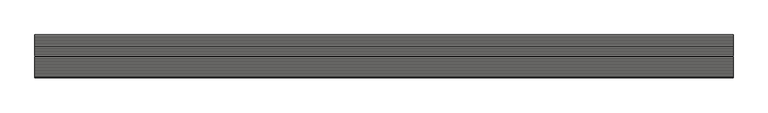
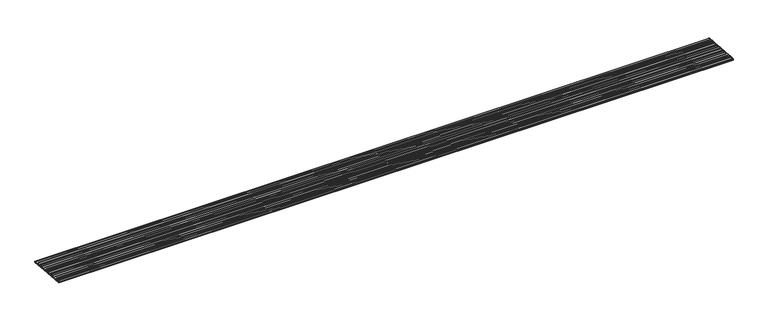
"""IFC4 building model written with IfcOpenShell, lengths in millimetres: slab geometry, ROSA GRES_001 (2 filas) : Piezas 001_Aqua_Blanco_Anti-Slip."""

from ifc_helpers import new_model, si_unit, point, frame, frame_2d, origin, place, context, project, spatial, polyline, circle_curve, trimmed, segment, composite_curve, outline, extrude, source, transform, mapped, element, save


def slab_e566efe1(model_context):
    return source(origin(), model_context, "Body", "SweptSolid", [
        extrude(outline(polyline([(0.0, 118.9996), (3987.1379887, 118.9996), (3987.1379887, 0.0), (0.0, 0.0), (0.0, 118.9996)])), frame((3987.1379887, -124.0577627, 199.6968204), z_axis=(0.0, 0.08112705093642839, 0.9967037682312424), x_axis=(-1.0, 0.0, 0.0)), (0.0, 0.0, 1.0), 5.0),
        extrude(outline(polyline([(0.0, 118.9996), (3987.1379887, 118.9996), (3987.1379887, 0.0), (0.0, 0.0), (0.0, 118.9996)])), frame((3987.1379887, -248.6453351, 209.8376693), z_axis=(0.0, 0.08112705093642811, 0.9967037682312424), x_axis=(-1.0, 0.0, 0.0)), (0.0, 0.0, 1.0), 5.0),
        extrude(outline(composite_curve([segment(polyline([(-242.2594772, 214.3344258), (-242.046278, 216.9537305)]), True, "CONTINUOUS"), segment(trimmed(circle_curve(frame_2d((-241.5926747, 222.5265709)), 5.5912705), [point((-242.046278, 216.9537305))], [point((-237.6514463, 218.5605875))], True, "CARTESIAN"), True, "CONTINUOUS"), segment(trimmed(circle_curve(frame_2d((-233.1207211, 221.8369933)), 5.5912705), [point((-237.6514463, 218.5605875))], [point((-229.1794928, 217.8710099))], True, "CARTESIAN"), True, "CONTINUOUS"), segment(trimmed(circle_curve(frame_2d((-224.6487676, 221.1474157)), 5.5912705), [point((-229.1794928, 217.8710099))], [point((-220.7075392, 217.1814322))], True, "CARTESIAN"), True, "CONTINUOUS"), segment(trimmed(circle_curve(frame_2d((-216.176814, 220.457838)), 5.5912705), [point((-220.7075392, 217.1814322))], [point((-212.2355856, 216.4918546))], True, "CARTESIAN"), True, "CONTINUOUS"), segment(trimmed(circle_curve(frame_2d((-207.7048605, 219.7682604)), 5.5912705), [point((-212.2355856, 216.4918546))], [point((-203.7636321, 215.802277))], True, "CARTESIAN"), True, "CONTINUOUS"), segment(trimmed(circle_curve(frame_2d((-199.2329069, 219.0786828)), 5.5912705), [point((-203.7636321, 215.802277))], [point((-195.2916785, 215.1126994))], True, "CARTESIAN"), True, "CONTINUOUS"), segment(trimmed(circle_curve(frame_2d((-190.7609534, 218.3891052)), 5.5912705), [point((-195.2916785, 215.1126994))], [point((-186.819725, 214.4231218))], True, "CARTESIAN"), True, "CONTINUOUS"), segment(trimmed(circle_curve(frame_2d((-182.2889998, 217.6995276)), 5.5912705), [point((-186.819725, 214.4231218))], [point((-178.3477714, 213.7335442))], True, "CARTESIAN"), True, "CONTINUOUS"), segment(trimmed(circle_curve(frame_2d((-173.8170463, 217.00995)), 5.5912705), [point((-178.3477714, 213.7335442))], [point((-169.8758179, 213.0439666))], True, "CARTESIAN"), True, "CONTINUOUS"), segment(trimmed(circle_curve(frame_2d((-165.3450927, 216.3203723)), 5.5912705), [point((-169.8758179, 213.0439666))], [point((-161.4038643, 212.3543889))], True, "CARTESIAN"), True, "CONTINUOUS"), segment(trimmed(circle_curve(frame_2d((-156.8731392, 215.6307947)), 5.5912705), [point((-161.4038643, 212.3543889))], [point((-152.9319108, 211.6648113))], True, "CARTESIAN"), True, "CONTINUOUS"), segment(trimmed(circle_curve(frame_2d((-148.4011856, 214.9412171)), 5.5912705), [point((-152.9319108, 211.6648113))], [point((-144.4599572, 210.9752337))], True, "CARTESIAN"), True, "CONTINUOUS"), segment(trimmed(circle_curve(frame_2d((-139.929232, 214.2516395)), 5.5912705), [point((-144.4599572, 210.9752337))], [point((-135.9880037, 210.2856561))], True, "CARTESIAN"), True, "CONTINUOUS"), segment(trimmed(circle_curve(frame_2d((-131.4572785, 213.5620619)), 5.5912705), [point((-135.9880037, 210.2856561))], [point((-127.5160501, 209.5960785))], True, "CARTESIAN"), True, "CONTINUOUS"), segment(trimmed(circle_curve(frame_2d((-122.9853249, 212.8724843)), 5.5912705), [point((-127.5160501, 209.5960785))], [point((-123.4389282, 207.2996439))], True, "CARTESIAN"), True, "CONTINUOUS"), segment(polyline([(-123.4389282, 207.2996439), (-123.6521274, 204.6803392), (-242.2594772, 214.3344258)]), True, "CONTINUOUS")], self_intersect=False)), frame((0.0, 0.0, 0.0), z_axis=(1.0, 0.0, 0.0), x_axis=(0.0, 1.0, 0.0)), (0.0, 0.0, 1.0), 3987.1379887),
        extrude(outline(composite_curve([segment(polyline([(-366.8470495, 224.4752747), (-366.6338503, 227.0945794)]), True, "CONTINUOUS"), segment(trimmed(circle_curve(frame_2d((-366.180247, 232.6674198)), 5.5912705), [point((-366.6338503, 227.0945794))], [point((-362.2390187, 228.7014364))], True, "CARTESIAN"), True, "CONTINUOUS"), segment(trimmed(circle_curve(frame_2d((-357.7082935, 231.9778422)), 5.5912705), [point((-362.2390187, 228.7014364))], [point((-353.7670651, 228.0118588))], True, "CARTESIAN"), True, "CONTINUOUS"), segment(trimmed(circle_curve(frame_2d((-349.2363399, 231.2882646)), 5.5912705), [point((-353.7670651, 228.0118588))], [point((-345.2951115, 227.3222812))], True, "CARTESIAN"), True, "CONTINUOUS"), segment(trimmed(circle_curve(frame_2d((-340.7643864, 230.5986869)), 5.5912705), [point((-345.2951115, 227.3222812))], [point((-336.823158, 226.6327035))], True, "CARTESIAN"), True, "CONTINUOUS"), segment(trimmed(circle_curve(frame_2d((-332.2924328, 229.9091093)), 5.5912705), [point((-336.823158, 226.6327035))], [point((-328.3512044, 225.9431259))], True, "CARTESIAN"), True, "CONTINUOUS"), segment(trimmed(circle_curve(frame_2d((-323.8204793, 229.2195317)), 5.5912705), [point((-328.3512044, 225.9431259))], [point((-319.8792509, 225.2535483))], True, "CARTESIAN"), True, "CONTINUOUS"), segment(trimmed(circle_curve(frame_2d((-315.3485257, 228.5299541)), 5.5912705), [point((-319.8792509, 225.2535483))], [point((-311.4072973, 224.5639707))], True, "CARTESIAN"), True, "CONTINUOUS"), segment(trimmed(circle_curve(frame_2d((-306.8765722, 227.8403765)), 5.5912705), [point((-311.4072973, 224.5639707))], [point((-302.9353438, 223.8743931))], True, "CARTESIAN"), True, "CONTINUOUS"), segment(trimmed(circle_curve(frame_2d((-298.4046186, 227.1507989)), 5.5912705), [point((-302.9353438, 223.8743931))], [point((-294.4633902, 223.1848155))], True, "CARTESIAN"), True, "CONTINUOUS"), segment(trimmed(circle_curve(frame_2d((-289.9326651, 226.4612213)), 5.5912705), [point((-294.4633902, 223.1848155))], [point((-285.9914367, 222.4952379))], True, "CARTESIAN"), True, "CONTINUOUS"), segment(trimmed(circle_curve(frame_2d((-281.4607115, 225.7716436)), 5.5912705), [point((-285.9914367, 222.4952379))], [point((-277.5194831, 221.8056602))], True, "CARTESIAN"), True, "CONTINUOUS"), segment(trimmed(circle_curve(frame_2d((-272.9887579, 225.082066)), 5.5912705), [point((-277.5194831, 221.8056602))], [point((-269.0475296, 221.1160826))], True, "CARTESIAN"), True, "CONTINUOUS"), segment(trimmed(circle_curve(frame_2d((-264.5168044, 224.3924884)), 5.5912705), [point((-269.0475296, 221.1160826))], [point((-260.575576, 220.426505))], True, "CARTESIAN"), True, "CONTINUOUS"), segment(trimmed(circle_curve(frame_2d((-256.0448508, 223.7029108)), 5.5912705), [point((-260.575576, 220.426505))], [point((-252.1036225, 219.7369274))], True, "CARTESIAN"), True, "CONTINUOUS"), segment(trimmed(circle_curve(frame_2d((-247.5728973, 223.0133332)), 5.5912705), [point((-252.1036225, 219.7369274))], [point((-248.0265006, 217.4404928))], True, "CARTESIAN"), True, "CONTINUOUS"), segment(polyline([(-248.0265006, 217.4404928), (-248.2396998, 214.8211881), (-366.8470495, 224.4752747)]), True, "CONTINUOUS")], self_intersect=False)), frame((0.0, 0.0, 0.0), z_axis=(1.0, 0.0, 0.0), x_axis=(0.0, 1.0, 0.0)), (0.0, 0.0, 1.0), 3987.1379887),
    ])


if __name__ == "__main__":
    model = new_model("IFC4")
    model_context = context("Model", 3, world=origin())
    ifc_project = project(units=[si_unit("LENGTHUNIT", "METRE", prefix="MILLI")], contexts=[model_context])
    site = spatial("IfcSite", under=ifc_project)
    building = spatial("IfcBuilding", under=site)
    placement = place(None, origin())
    slab_shape = slab_e566efe1(model_context)
    element("IfcSlab", 1, ObjectType="ROSA GRES_001 (2 filas) : Piezas 001_Aqua_Blanco_Anti-Slip", at=placement, inside=building, context=model_context, shape_type="MappedRepresentation", body=[
        mapped(slab_shape, transform((0.0, 0.0, 0.0), x_axis=(1.0, 0.0, 0.0), y_axis=(0.0, 1.0, 0.0), z_axis=(0.0, 0.0, 1.0))),
    ])
    save(model, "model.ifc")
